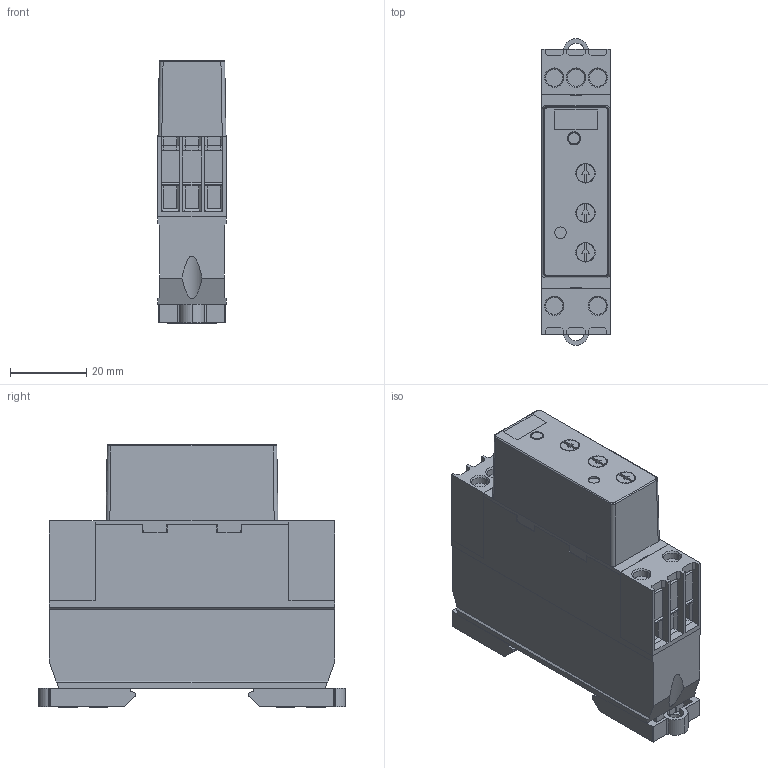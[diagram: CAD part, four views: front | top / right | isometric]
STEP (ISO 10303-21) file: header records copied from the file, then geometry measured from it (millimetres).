
FILE_DESCRIPTION (( 'STEP AP214' ), '1' );
FILE_NAME ('CIM1xR.STEP', '2024-04-04T09:46:36', ( '' ), ( '' ), 'SwSTEP 2.0', 'SolidWorks 2022', '' );
FILE_SCHEMA (( 'AUTOMOTIVE_DESIGN' ));
Length unit declared in the file: millimetre
Products named in the file (1): CIM1xR
Bounding box: 17.9 x 80.6 x 69 mm (x, y, z)
Volume: 72887.3 mm3; surface area: 17914.9 mm2
Topology: 1 solids, 1 shells, 570 faces, 1600 edges, 1025 vertices
Faces by surface type: plane 436, cylinder 89, cone 28, torus 11, bspline 6
Entity records: 20585 total; most frequent: CARTESIAN_POINT 3616, ORIENTED_EDGE 3200, DIRECTION 2886, EDGE_CURVE 1600, LINE 1320, VECTOR 1320, VERTEX_POINT 1025, AXIS2_PLACEMENT_3D 783
